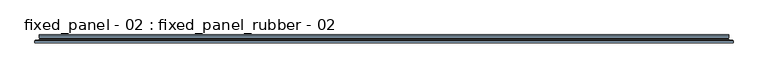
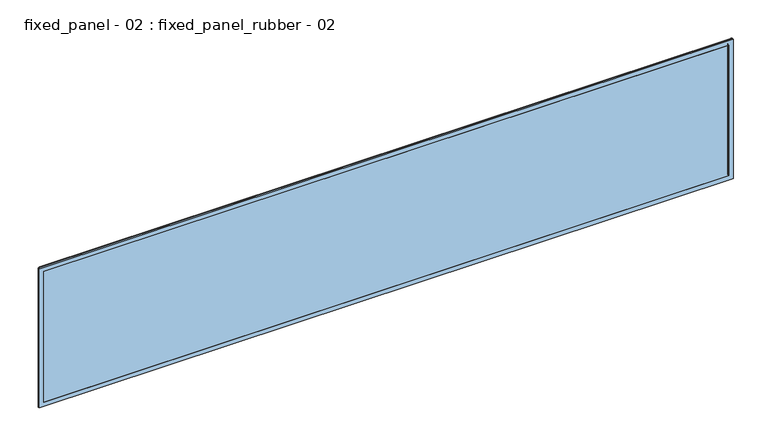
"""IFC4 building model written with IfcOpenShell, lengths in millimetres: window geometry, fixed_panel - 02 : fixed_panel_rubber - 02."""

from ifc_helpers import new_model, si_unit, frame, origin, place, context, project, spatial, polyline, ellipse_curve, outline, extrude, faceted_brep, source, transform, mapped, element, save
from ifc_brep_helpers import plane_surface, cylinder_surface, advanced_brep


def fixed_panel_02_fixed_panel_rubber_02_f5d591b8(model_context):
    return source(origin(), model_context, "Body", "SolidModel", [
        advanced_brep(
        [(1510.0, -27.9878211, 590.0157699), (1515.0, -22.9878211, 595.0157699), (1515.0, -22.9878211, -25.0), (1510.0, -27.9878211, -20.0), (1524.9976779, -22.9878211, -34.9976779), (-1524.9976779, -22.9878211, -34.9976779), (-1524.9976779, -22.9878211, 605.0134478), (1524.9976779, -22.9878211, 605.0134478), (-1515.0, -22.9878211, 595.0157699), (-1515.0, -22.9878211, -25.0), (-1510.0, -27.9878211, -20.0), (1510.0, -34.0, 590.0157699), (1510.0, -34.0, -20.0), (-1510.0, -34.0, -20.0), (1529.9933535, -34.0, 610.0091234), (-1529.9933535, -34.0, 610.0091234), (-1529.9933535, -34.0, -39.9933535), (1529.9933535, -34.0, -39.9933535), (-1510.0, -34.0, 590.0157699), (1529.9933535, -27.9834967, 610.0091234), (1529.9933535, -27.9834967, -39.9933535), (-1529.9933535, -27.9834967, -39.9933535), (-1510.0, -27.9878211, 590.0157699), (-1529.9933535, -27.9834967, 610.0091234)],
        [
            (0, 1, ellipse_curve(frame((1515.0, -27.9878211, 595.0157699), z_axis=(0.7071067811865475, 0.0, -0.7071067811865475), x_axis=(0.7071067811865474, 0.0, 0.7071067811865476)), 7.0710678, 5.0)),
            (1, 2),
            (2, 3, ellipse_curve(frame((1515.0, -27.9878211, -25.0), z_axis=(0.7071067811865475, 0.0, 0.7071067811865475), x_axis=(-0.7071067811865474, 0.0, 0.7071067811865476)), 7.0710678, 5.0)),
            (3, 0),
            (4, 5),
            (5, 6),
            (6, 7),
            (7, 4),
            (1, 8),
            (8, 9),
            (9, 2),
            (9, 10, ellipse_curve(frame((-1515.0, -27.9878211, -25.0), z_axis=(0.7071067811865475, 0.0, -0.7071067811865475), x_axis=(0.7071067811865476, 0.0, 0.7071067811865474)), 7.0710678, 5.0)),
            (10, 3),
            (11, 0),
            (3, 12),
            (12, 11),
            (10, 13),
            (13, 12),
            (14, 15),
            (15, 16),
            (16, 17),
            (17, 14),
            (13, 18),
            (18, 11),
            (19, 14),
            (17, 20),
            (20, 19),
            (16, 21),
            (21, 20),
            (7, 19, ellipse_curve(frame((1524.9976779, -27.9834967, 605.0134478), z_axis=(0.7071067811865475, 0.0, -0.7071067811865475), x_axis=(0.7071067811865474, 0.0, 0.7071067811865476)), 7.0649521, 4.9956756)),
            (20, 4, ellipse_curve(frame((1524.9976779, -27.9834967, -34.9976779), z_axis=(0.7071067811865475, 0.0, 0.7071067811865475), x_axis=(-0.7071067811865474, 0.0, 0.7071067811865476)), 7.0649521, 4.9956756)),
            (21, 5, ellipse_curve(frame((-1524.9976779, -27.9834967, -34.9976779), z_axis=(0.7071067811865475, 0.0, -0.7071067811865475), x_axis=(0.7071067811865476, 0.0, 0.7071067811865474)), 7.0649521, 4.9956756)),
            (8, 22, ellipse_curve(frame((-1515.0, -27.9878211, 595.0157699), z_axis=(-0.7071067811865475, 0.0, -0.7071067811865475), x_axis=(0.7071067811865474, 0.0, -0.7071067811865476)), 7.0710678, 5.0)),
            (22, 10),
            (22, 18),
            (15, 23),
            (23, 21),
            (23, 6, ellipse_curve(frame((-1524.9976779, -27.9834967, 605.0134478), z_axis=(-0.7071067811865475, 0.0, -0.7071067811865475), x_axis=(0.7071067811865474, 0.0, -0.7071067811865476)), 7.0649521, 4.9956756)),
            (0, 22),
            (19, 23),
        ],
        [
            cylinder_surface(frame((1515.0, -27.9878211, 590.0157699), z_axis=(0.0, 0.0, 1.0), x_axis=(1.0, 0.0, 0.0)), 5.0),
            plane_surface(frame((-1524.9976779, -22.9878211, 605.0134478), z_axis=(0.0, 1.0, 0.0), x_axis=(1.0, 0.0, 0.0))),
            cylinder_surface(frame((1510.0, -27.9878211, -25.0), z_axis=(1.0, 0.0, 0.0), x_axis=(0.0, 0.0, -1.0)), 5.0),
            plane_surface(frame((1510.0, -27.9878211, 590.0157699), z_axis=(-1.0, 0.0, 0.0), x_axis=(0.0, 0.0, -1.0))),
            plane_surface(frame((1510.0, -27.9878211, -20.0), z_axis=(0.0, 0.0, 1.0), x_axis=(-1.0, 0.0, 0.0))),
            plane_surface(frame((-1510.0, -34.0, 590.0157699), z_axis=(0.0, -1.0, 0.0), x_axis=(1.0, 0.0, 0.0))),
            plane_surface(frame((1529.9933535, -34.0, 610.0091234), z_axis=(1.0, 0.0, 0.0), x_axis=(0.0, 0.0, -1.0))),
            plane_surface(frame((1529.9933535, -34.0, -39.9933535), z_axis=(0.0, 0.0, -1.0), x_axis=(-1.0, 0.0, 0.0))),
            cylinder_surface(frame((1524.9976779, -27.9834967, 590.0157699), z_axis=(0.0, 0.0, 1.0), x_axis=(1.0, 0.0, 0.0)), 4.9956756),
            cylinder_surface(frame((1510.0, -27.9834967, -34.9976779), z_axis=(1.0, 0.0, 0.0), x_axis=(0.0, 0.0, -1.0)), 4.9956756),
            cylinder_surface(frame((-1515.0, -27.9878211, -20.0), z_axis=(0.0, 0.0, -1.0), x_axis=(-1.0, 0.0, 0.0)), 5.0),
            plane_surface(frame((-1510.0, -27.9878211, -20.0), z_axis=(1.0, 0.0, 0.0), x_axis=(0.0, 0.0, 1.0))),
            plane_surface(frame((-1529.9933535, -34.0, -39.9933535), z_axis=(-1.0, 0.0, 0.0), x_axis=(0.0, 0.0, 1.0))),
            cylinder_surface(frame((-1524.9976779, -27.9834967, -20.0), z_axis=(0.0, 0.0, -1.0), x_axis=(-1.0, 0.0, 0.0)), 4.9956756),
            cylinder_surface(frame((-1510.0, -27.9878211, 595.0157699), z_axis=(-1.0, 0.0, 0.0), x_axis=(0.0, 0.0, 1.0)), 5.0),
            plane_surface(frame((-1510.0, -27.9878211, 590.0157699), z_axis=(0.0, 0.0, -1.0), x_axis=(1.0, 0.0, 0.0))),
            plane_surface(frame((-1529.9933535, -34.0, 610.0091234), z_axis=(0.0, 0.0, 1.0), x_axis=(1.0, 0.0, 0.0))),
            cylinder_surface(frame((-1510.0, -27.9834967, 605.0134478), z_axis=(-1.0, 0.0, 0.0), x_axis=(0.0, 0.0, 1.0)), 4.9956756),
        ],
        [
            (0, [[1, 2, 3, 4]]),
            (1, [[5, 6, 7, 8], [9, 10, 11, -2]]),
            (2, [[-3, -11, 12, 13]]),
            (3, [[14, -4, 15, 16]]),
            (4, [[-15, -13, 17, 18]]),
            (5, [[19, 20, 21, 22], [-18, 23, 24, -16]]),
            (6, [[25, -22, 26, 27]]),
            (7, [[-26, -21, 28, 29]]),
            (8, [[30, -27, 31, -8]]),
            (9, [[-31, -29, 32, -5]]),
            (10, [[-12, -10, 33, 34]]),
            (11, [[-17, -34, 35, -23]]),
            (12, [[-28, -20, 36, 37]]),
            (13, [[-32, -37, 38, -6]]),
            (14, [[-33, -9, -1, 39]]),
            (15, [[-35, -39, -14, -24]]),
            (16, [[-36, -19, -25, 40]]),
            (17, [[-38, -40, -30, -7]]),
        ],
    ),
        faceted_brep([(1484.0, -26.0, 564.0157699), (1484.0, -6.0, 564.0157699), (1484.0, -6.0, 6.0), (1484.0, -26.0, 6.0), (1510.0, -6.0, -20.0), (-1510.0, -6.0, -20.0), (-1510.0, -6.0, 590.0157699), (1510.0, -6.0, 590.0157699), (-1484.0, -6.0, 564.0157699), (-1484.0, -6.0, 6.0), (-1484.0, -26.0, 6.0), (1510.0, -26.0, 590.0157699), (-1510.0, -26.0, 590.0157699), (-1510.0, -26.0, -20.0), (1510.0, -26.0, -20.0), (-1484.0, -26.0, 564.0157699), (1510.0, -18.8, 590.0157699), (1510.0, -18.8, -20.0), (-1510.0, -18.8, -20.0), (-1510.0, -18.8, 590.0157699), (1499.0, -18.8, 579.0157699), (-1499.0, -18.8, 579.0157699), (-1499.0, -18.8, -9.0), (1499.0, -18.8, -9.0), (1499.0, -13.2, 579.0157699), (1499.0, -13.2, -9.0), (-1499.0, -13.2, -9.0), (1510.0, -13.2, 590.0157699), (-1510.0, -13.2, 590.0157699), (-1510.0, -13.2, -20.0), (1510.0, -13.2, -20.0), (-1499.0, -13.2, 579.0157699)], [[[0, 1, 2, 3]], [[4, 5, 6, 7], [1, 8, 9, 2]], [[3, 2, 9, 10]], [[11, 12, 13, 14], [3, 10, 15, 0]], [[16, 11, 14, 17]], [[17, 14, 13, 18]], [[17, 18, 19, 16], [20, 21, 22, 23]], [[24, 20, 23, 25]], [[25, 23, 22, 26]], [[27, 28, 29, 30], [25, 26, 31, 24]], [[7, 27, 30, 4]], [[4, 30, 29, 5]], [[10, 9, 8, 15]], [[18, 13, 12, 19]], [[26, 22, 21, 31]], [[5, 29, 28, 6]], [[15, 8, 1, 0]], [[19, 12, 11, 16]], [[31, 21, 20, 24]], [[6, 28, 27, 7]]]),
        extrude(outline(polyline([(1510.0, -34.0), (-1510.0, -34.0), (-1510.0, -26.0), (1510.0, -26.0), (1510.0, -34.0)])), frame((0.0, 0.0, -20.0), z_axis=(0.0, 0.0, 1.0), x_axis=(1.0, 0.0, 0.0)), (0.0, 0.0, 1.0), 610.0157699),
        extrude(outline(polyline([(1510.0, -6.0), (-1510.0, -6.0), (-1510.0, 0.0), (1510.0, 0.0), (1510.0, -6.0)])), frame((0.0, 0.0, -20.0), z_axis=(0.0, 0.0, 1.0), x_axis=(1.0, 0.0, 0.0)), (0.0, 0.0, 1.0), 610.0157699),
    ])


if __name__ == "__main__":
    model = new_model("IFC4")
    model_context = context("Model", 3, world=origin())
    ifc_project = project(units=[si_unit("LENGTHUNIT", "METRE", prefix="MILLI")], contexts=[model_context])
    site = spatial("IfcSite", under=ifc_project)
    building = spatial("IfcBuilding", under=site)
    placement = place(None, origin())
    fixed_panel_02_fixed_panel_rubber_02_shape = fixed_panel_02_fixed_panel_rubber_02_f5d591b8(model_context)
    element("IfcWindow", 1, ObjectType="fixed_panel - 02 : fixed_panel_rubber - 02", at=placement, inside=building, context=model_context, shape_type="MappedRepresentation", body=[
        mapped(fixed_panel_02_fixed_panel_rubber_02_shape, transform((0.0, 0.0, 0.0), x_axis=(1.0, 0.0, 0.0), y_axis=(0.0, 1.0, 0.0), z_axis=(0.0, 0.0, 1.0))),
    ])
    save(model, "model.ifc")
